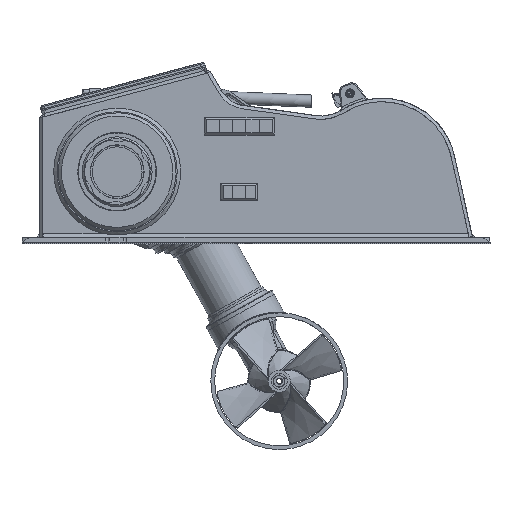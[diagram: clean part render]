
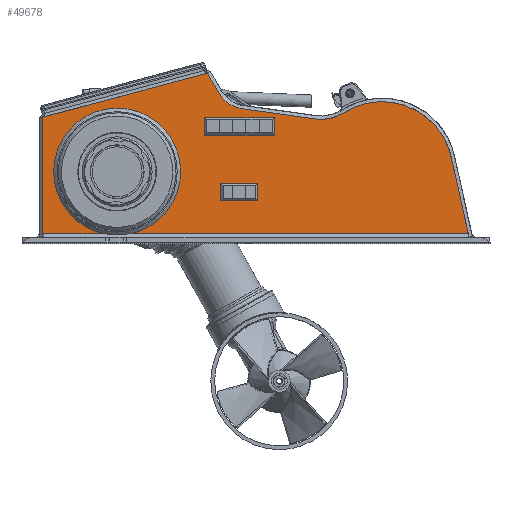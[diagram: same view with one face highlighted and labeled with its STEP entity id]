
A CAD part, left-side view. The second image highlights one B-rep face of the part: STEP entity #49678.
In plain terms, the highlighted planar face has unit normal (-1, 0, 0).
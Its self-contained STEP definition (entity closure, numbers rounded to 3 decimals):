
#2166=FACE_BOUND('',#5932,.T.);
#2167=FACE_BOUND('',#5933,.T.);
#3134=FACE_OUTER_BOUND('',#5931,.T.);
#5931=EDGE_LOOP('',(#33798,#33799,#33800,#33801,#33802,#33803,#33804,#33805,
#33806,#33807,#33808,#33809,#33810,#33811));
#5932=EDGE_LOOP('',(#33812,#33813,#33814,#33815));
#5933=EDGE_LOOP('',(#33816,#33817,#33818,#33819));
#9206=LINE('',#75746,#13299);
#9209=LINE('',#75789,#13302);
#9440=LINE('',#77006,#13533);
#9441=LINE('',#77007,#13534);
#9442=LINE('',#77009,#13535);
#9443=LINE('',#77011,#13536);
#9444=LINE('',#77013,#13537);
#9445=LINE('',#77015,#13538);
#9446=LINE('',#77017,#13539);
#9447=LINE('',#77023,#13540);
#9448=LINE('',#77025,#13541);
#9449=LINE('',#77027,#13542);
#9450=LINE('',#77028,#13543);
#9451=LINE('',#77031,#13544);
#9452=LINE('',#77033,#13545);
#9453=LINE('',#77035,#13546);
#9454=LINE('',#77036,#13547);
#13299=VECTOR('',#59805,10.);
#13302=VECTOR('',#59814,10.);
#13533=VECTOR('',#60423,10.);
#13534=VECTOR('',#60424,10.);
#13535=VECTOR('',#60425,10.);
#13536=VECTOR('',#60426,10.);
#13537=VECTOR('',#60427,10.);
#13538=VECTOR('',#60428,10.);
#13539=VECTOR('',#60429,10.);
#13540=VECTOR('',#60434,10.);
#13541=VECTOR('',#60435,10.);
#13542=VECTOR('',#60436,10.);
#13543=VECTOR('',#60437,10.);
#13544=VECTOR('',#60438,10.);
#13545=VECTOR('',#60439,10.);
#13546=VECTOR('',#60440,10.);
#13547=VECTOR('',#60441,10.);
#17121=CIRCLE('',#52925,75.);
#17122=CIRCLE('',#52928,100.);
#17123=CIRCLE('',#52930,162.5);
#17228=CIRCLE('',#53116,145.5);
#17229=CIRCLE('',#53117,145.5);
#19863=VERTEX_POINT('',#75723);
#19868=VERTEX_POINT('',#75743);
#19869=VERTEX_POINT('',#75745);
#19871=VERTEX_POINT('',#75771);
#19873=VERTEX_POINT('',#75788);
#19875=VERTEX_POINT('',#75935);
#19877=VERTEX_POINT('',#75955);
#20160=VERTEX_POINT('',#77005);
#20161=VERTEX_POINT('',#77008);
#20162=VERTEX_POINT('',#77010);
#20163=VERTEX_POINT('',#77012);
#20164=VERTEX_POINT('',#77014);
#20165=VERTEX_POINT('',#77016);
#20166=VERTEX_POINT('',#77018);
#20167=VERTEX_POINT('',#77021);
#20168=VERTEX_POINT('',#77022);
#20169=VERTEX_POINT('',#77024);
#20170=VERTEX_POINT('',#77026);
#20171=VERTEX_POINT('',#77029);
#20172=VERTEX_POINT('',#77030);
#20173=VERTEX_POINT('',#77032);
#20174=VERTEX_POINT('',#77034);
#24967=EDGE_CURVE('',#19868,#19869,#9206,.T.);
#24970=EDGE_CURVE('',#19869,#19871,#17121,.T.);
#24973=EDGE_CURVE('',#19871,#19873,#9209,.T.);
#24976=EDGE_CURVE('',#19873,#19875,#17122,.T.);
#24979=EDGE_CURVE('',#19875,#19877,#17123,.T.);
#25334=EDGE_CURVE('',#20160,#19863,#9440,.T.);
#25335=EDGE_CURVE('',#19877,#19863,#9441,.T.);
#25336=EDGE_CURVE('',#20161,#19868,#9442,.T.);
#25337=EDGE_CURVE('',#20162,#20161,#9443,.T.);
#25338=EDGE_CURVE('',#20163,#20162,#9444,.T.);
#25339=EDGE_CURVE('',#20163,#20164,#9445,.T.);
#25340=EDGE_CURVE('',#20164,#20165,#9446,.T.);
#25341=EDGE_CURVE('',#20165,#20166,#17228,.T.);
#25342=EDGE_CURVE('',#20166,#20160,#17229,.T.);
#25343=EDGE_CURVE('',#20167,#20168,#9447,.T.);
#25344=EDGE_CURVE('',#20168,#20169,#9448,.T.);
#25345=EDGE_CURVE('',#20169,#20170,#9449,.T.);
#25346=EDGE_CURVE('',#20170,#20167,#9450,.T.);
#25347=EDGE_CURVE('',#20171,#20172,#9451,.T.);
#25348=EDGE_CURVE('',#20172,#20173,#9452,.T.);
#25349=EDGE_CURVE('',#20173,#20174,#9453,.T.);
#25350=EDGE_CURVE('',#20174,#20171,#9454,.T.);
#33798=ORIENTED_EDGE('',*,*,#25334,.T.);
#33799=ORIENTED_EDGE('',*,*,#25335,.F.);
#33800=ORIENTED_EDGE('',*,*,#24979,.F.);
#33801=ORIENTED_EDGE('',*,*,#24976,.F.);
#33802=ORIENTED_EDGE('',*,*,#24973,.F.);
#33803=ORIENTED_EDGE('',*,*,#24970,.F.);
#33804=ORIENTED_EDGE('',*,*,#24967,.F.);
#33805=ORIENTED_EDGE('',*,*,#25336,.F.);
#33806=ORIENTED_EDGE('',*,*,#25337,.F.);
#33807=ORIENTED_EDGE('',*,*,#25338,.F.);
#33808=ORIENTED_EDGE('',*,*,#25339,.T.);
#33809=ORIENTED_EDGE('',*,*,#25340,.T.);
#33810=ORIENTED_EDGE('',*,*,#25341,.T.);
#33811=ORIENTED_EDGE('',*,*,#25342,.T.);
#33812=ORIENTED_EDGE('',*,*,#25343,.T.);
#33813=ORIENTED_EDGE('',*,*,#25344,.T.);
#33814=ORIENTED_EDGE('',*,*,#25345,.T.);
#33815=ORIENTED_EDGE('',*,*,#25346,.T.);
#33816=ORIENTED_EDGE('',*,*,#25347,.T.);
#33817=ORIENTED_EDGE('',*,*,#25348,.T.);
#33818=ORIENTED_EDGE('',*,*,#25349,.T.);
#33819=ORIENTED_EDGE('',*,*,#25350,.T.);
#45213=PLANE('',#53115);
#49678=ADVANCED_FACE('',(#3134,#2166,#2167),#45213,.F.);
#52925=AXIS2_PLACEMENT_3D('',#75772,#59809,#59810);
#52928=AXIS2_PLACEMENT_3D('',#75936,#59818,#59819);
#52930=AXIS2_PLACEMENT_3D('',#75956,#59823,#59824);
#53115=AXIS2_PLACEMENT_3D('',#77004,#60421,#60422);
#53116=AXIS2_PLACEMENT_3D('',#77019,#60430,#60431);
#53117=AXIS2_PLACEMENT_3D('',#77020,#60432,#60433);
#59805=DIRECTION('',(0.,-0.5,-0.866));
#59809=DIRECTION('center_axis',(-1.,0.,0.));
#59810=DIRECTION('ref_axis',(0.,-0.139,0.99));
#59814=DIRECTION('',(0.,-0.99,-0.139));
#59818=DIRECTION('center_axis',(-1.,0.,0.));
#59819=DIRECTION('ref_axis',(0.,0.534,0.846));
#59823=DIRECTION('center_axis',(1.,0.,0.));
#59824=DIRECTION('ref_axis',(0.,0.534,0.846));
#60421=DIRECTION('center_axis',(1.,0.,0.));
#60422=DIRECTION('ref_axis',(0.,1.,0.));
#60423=DIRECTION('',(0.,-1.,0.));
#60424=DIRECTION('',(0.,-0.216,-0.976));
#60425=DIRECTION('',(0.,-0.966,0.259));
#60426=DIRECTION('',(0.,0.,1.));
#60427=DIRECTION('',(0.,1.,0.));
#60428=DIRECTION('',(0.,0.,1.));
#60429=DIRECTION('',(0.,-1.,0.));
#60430=DIRECTION('center_axis',(1.,0.,0.));
#60431=DIRECTION('ref_axis',(0.,0.,-1.));
#60432=DIRECTION('center_axis',(1.,0.,0.));
#60433=DIRECTION('ref_axis',(0.,0.,-1.));
#60434=DIRECTION('',(0.,0.,1.));
#60435=DIRECTION('',(0.,-1.,0.));
#60436=DIRECTION('',(0.,0.,-1.));
#60437=DIRECTION('',(0.,1.,0.));
#60438=DIRECTION('',(0.,0.,1.));
#60439=DIRECTION('',(0.,-1.,0.));
#60440=DIRECTION('',(0.,0.,-1.));
#60441=DIRECTION('',(0.,1.,0.));
#75723=CARTESIAN_POINT('',(-220.5,9.774,22.));
#75743=CARTESIAN_POINT('',(-220.5,607.289,389.939));
#75745=CARTESIAN_POINT('',(-220.5,581.352,345.015));
#75746=CARTESIAN_POINT('',(-220.5,607.289,389.939));
#75771=CARTESIAN_POINT('',(-220.5,526.838,308.245));
#75772=CARTESIAN_POINT('Origin',(-220.5,516.4,382.515));
#75788=CARTESIAN_POINT('',(-220.5,361.253,284.973));
#75789=CARTESIAN_POINT('',(-220.5,526.838,308.245));
#75935=CARTESIAN_POINT('',(-220.5,293.972,299.429));
#75936=CARTESIAN_POINT('Origin',(-220.5,347.336,384.));
#75955=CARTESIAN_POINT('',(-220.5,48.608,197.171));
#75956=CARTESIAN_POINT('Origin',(-220.5,207.256,162.));
#77004=CARTESIAN_POINT('Origin',(-220.5,514.425,163.155));
#77005=CARTESIAN_POINT('',(-220.5,782.279,22.));
#77006=CARTESIAN_POINT('',(-220.5,748.727,22.));
#77007=CARTESIAN_POINT('',(-220.5,48.608,197.171));
#77008=CARTESIAN_POINT('',(-220.5,984.,289.));
#77009=CARTESIAN_POINT('',(-220.5,984.,289.));
#77010=CARTESIAN_POINT('',(-220.5,984.,14.));
#77011=CARTESIAN_POINT('',(-220.5,984.,14.));
#77012=CARTESIAN_POINT('',(-220.5,983.029,14.));
#77013=CARTESIAN_POINT('',(-220.5,8.,14.));
#77014=CARTESIAN_POINT('',(-220.5,983.029,22.));
#77015=CARTESIAN_POINT('',(-220.5,983.029,88.577));
#77016=CARTESIAN_POINT('',(-220.5,845.721,22.));
#77017=CARTESIAN_POINT('',(-220.5,748.727,22.));
#77018=CARTESIAN_POINT('',(-220.5,814.,309.5));
#77019=CARTESIAN_POINT('Origin',(-220.5,814.,164.));
#77020=CARTESIAN_POINT('Origin',(-220.5,814.,164.));
#77021=CARTESIAN_POINT('',(-220.5,614.,248.));
#77022=CARTESIAN_POINT('',(-220.5,614.,288.));
#77023=CARTESIAN_POINT('',(-220.5,614.,225.577));
#77024=CARTESIAN_POINT('',(-220.5,454.,288.));
#77025=CARTESIAN_POINT('',(-220.5,484.213,288.));
#77026=CARTESIAN_POINT('',(-220.5,454.,248.));
#77027=CARTESIAN_POINT('',(-220.5,454.,205.577));
#77028=CARTESIAN_POINT('',(-220.5,564.213,248.));
#77029=CARTESIAN_POINT('',(-220.5,576.5,98.));
#77030=CARTESIAN_POINT('',(-220.5,576.5,138.));
#77031=CARTESIAN_POINT('',(-220.5,576.5,150.577));
#77032=CARTESIAN_POINT('',(-220.5,491.5,138.));
#77033=CARTESIAN_POINT('',(-220.5,502.963,138.));
#77034=CARTESIAN_POINT('',(-220.5,491.5,98.));
#77035=CARTESIAN_POINT('',(-220.5,491.5,130.577));
#77036=CARTESIAN_POINT('',(-220.5,545.463,98.));
